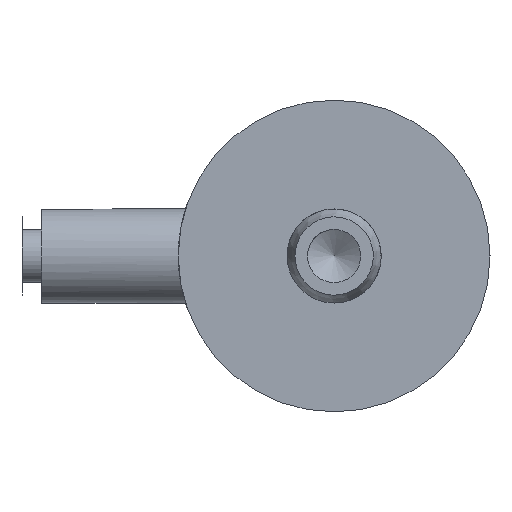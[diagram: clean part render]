
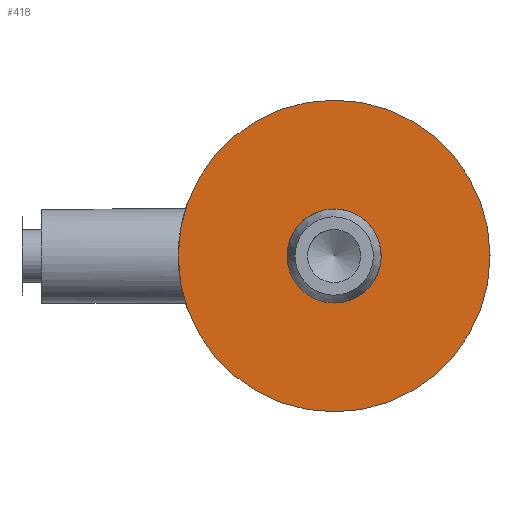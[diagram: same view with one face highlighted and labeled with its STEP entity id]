
A CAD part, left-side view. The second image highlights one B-rep face of the part: STEP entity #418.
In plain terms, the highlighted planar face has unit normal (-1, 0, 0).
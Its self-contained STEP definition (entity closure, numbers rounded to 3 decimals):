
#18=PLANE('',#492);
#28=FACE_BOUND('',#81,.T.);
#55=FACE_OUTER_BOUND('',#80,.T.);
#80=EDGE_LOOP('',(#350,#351));
#81=EDGE_LOOP('',(#352,#353));
#145=CIRCLE('',#478,1.195);
#146=CIRCLE('',#479,1.195);
#152=CIRCLE('',#488,3.96);
#153=CIRCLE('',#489,3.96);
#192=VERTEX_POINT('',#727);
#193=VERTEX_POINT('',#729);
#202=VERTEX_POINT('',#787);
#203=VERTEX_POINT('',#789);
#246=EDGE_CURVE('',#192,#193,#145,.T.);
#247=EDGE_CURVE('',#193,#192,#146,.T.);
#258=EDGE_CURVE('',#203,#202,#152,.T.);
#259=EDGE_CURVE('',#202,#203,#153,.T.);
#350=ORIENTED_EDGE('',*,*,#258,.T.);
#351=ORIENTED_EDGE('',*,*,#259,.T.);
#352=ORIENTED_EDGE('',*,*,#247,.F.);
#353=ORIENTED_EDGE('',*,*,#246,.F.);
#418=ADVANCED_FACE('',(#55,#28),#18,.T.);
#478=AXIS2_PLACEMENT_3D('',#730,#582,#583);
#479=AXIS2_PLACEMENT_3D('',#731,#584,#585);
#488=AXIS2_PLACEMENT_3D('',#790,#605,#606);
#489=AXIS2_PLACEMENT_3D('',#791,#607,#608);
#492=AXIS2_PLACEMENT_3D('',#794,#613,#614);
#582=DIRECTION('center_axis',(-1.,0.,0.));
#583=DIRECTION('ref_axis',(0.,-1.,0.));
#584=DIRECTION('center_axis',(-1.,0.,0.));
#585=DIRECTION('ref_axis',(0.,-1.,0.));
#605=DIRECTION('center_axis',(-1.,0.,0.));
#606=DIRECTION('ref_axis',(0.,-1.,0.));
#607=DIRECTION('center_axis',(-1.,0.,0.));
#608=DIRECTION('ref_axis',(0.,-1.,0.));
#613=DIRECTION('center_axis',(-1.,0.,0.));
#614=DIRECTION('ref_axis',(0.,0.,1.));
#727=CARTESIAN_POINT('',(-6.375,0.,-1.195));
#729=CARTESIAN_POINT('',(-6.375,1.195,0.));
#730=CARTESIAN_POINT('Origin',(-6.375,0.,0.));
#731=CARTESIAN_POINT('Origin',(-6.375,0.,0.));
#787=CARTESIAN_POINT('',(-6.375,0.,-3.96));
#789=CARTESIAN_POINT('',(-6.375,-3.96,0.));
#790=CARTESIAN_POINT('Origin',(-6.375,0.,0.));
#791=CARTESIAN_POINT('Origin',(-6.375,0.,0.));
#794=CARTESIAN_POINT('Origin',(-6.375,0.,-4.008));
